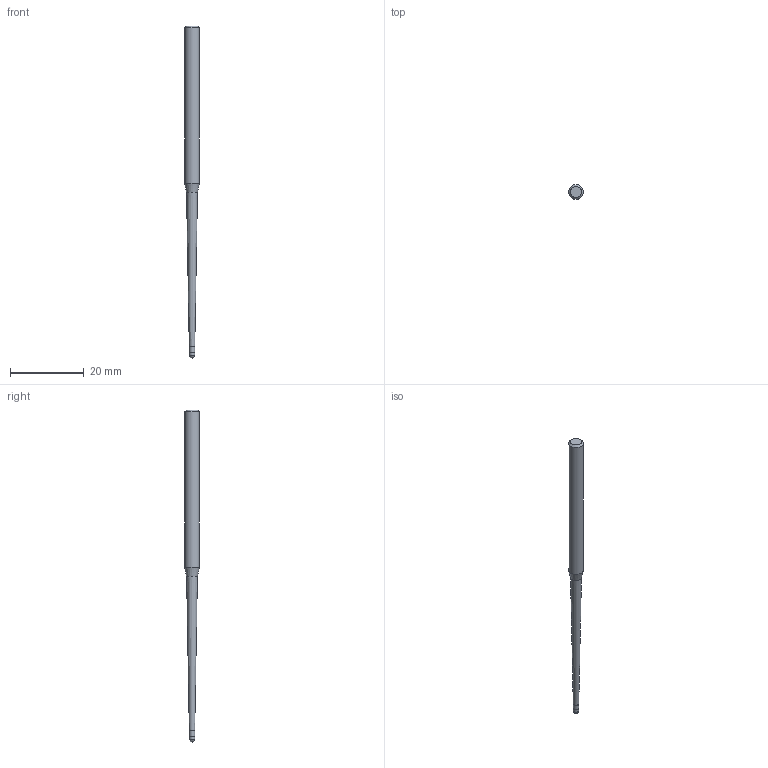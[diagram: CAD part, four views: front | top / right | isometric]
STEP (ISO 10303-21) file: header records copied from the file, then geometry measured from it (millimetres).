
FILE_DESCRIPTION((''),'2;1');
FILE_NAME('C:\Users\nsx150\AppData\Local\Temp\Mastercam 2021\SNAKH10GOD\TEMP.step','2021-10-21T13:32:52',(''),(''),'STEP Write','Mastercam 2021 ... CNC Software, Inc.','');
FILE_SCHEMA(('AUTOMOTIVE_DESIGN'));
Length unit declared in the file: millimetre
Products named in the file (1): None
Bounding box: 4 x 4 x 90 mm (x, y, z)
Volume: 731.4 mm3; surface area: 882.2 mm2
Topology: 2 solids, 2 shells, 10 faces, 16 edges, 9 vertices
Faces by surface type: plane 3, cylinder 3, cone 3, sphere 1
Full cylindrical faces by diameter (mm): 1.485 x1, 1.5 x1, 4 x1
Entity records: 232 total; most frequent: DIRECTION 40, CARTESIAN_POINT 28, AXIS2_PLACEMENT_3D 20, ORIENTED_EDGE 16, EDGE_LOOP 16, STYLED_ITEM 13, ADVANCED_FACE 10, FACE_BOUND 9
